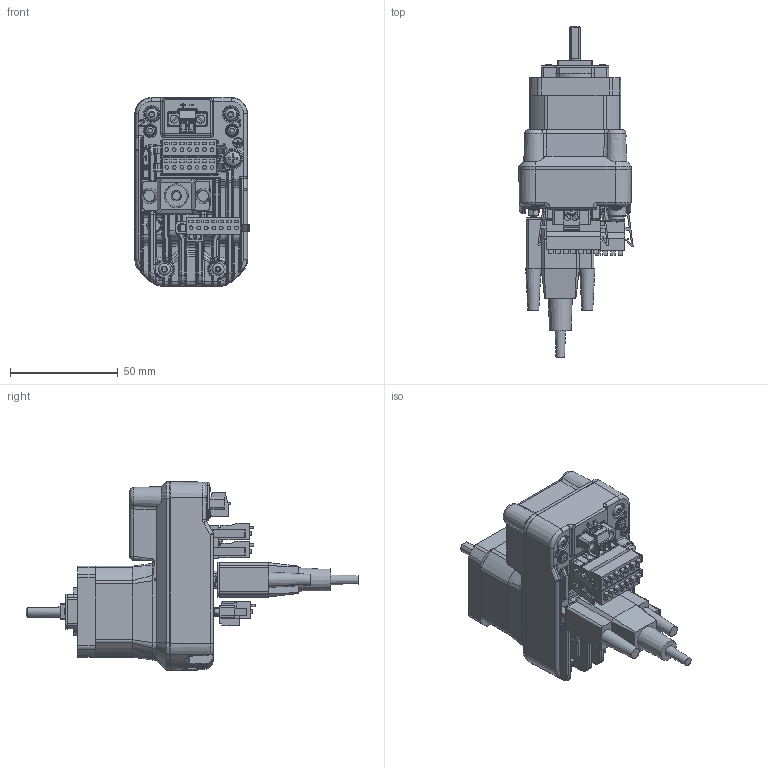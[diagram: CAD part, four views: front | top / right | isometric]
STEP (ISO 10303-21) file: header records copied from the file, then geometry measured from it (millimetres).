
FILE_DESCRIPTION(('LMDXPMA42-Single-Stack Web Model'),'1');
FILE_NAME('C:/temp/LMDXPMA42-Single-Stack Web Model.stp', '2013-09-24T14:35:20',('P. Bordua, 09/24/13'), ('Schneider Electric Motion USA'), 'KCM Version 1.1.794.0', 'Kubotek KeyCreator', 'Kubotek KeyCreator 2014 V12.0');
FILE_SCHEMA(('AUTOMOTIVE_DESIGN'));
Length unit declared in the file: inch
Products named in the file (6): Dinkle 0221-24-B3085308P, Pin-2 Keyed, Plug, 3.50mm Pitch, 7 x 1 Pos., Locking Tabs[Part1]; DB9 Mate (cable, Female)[Part1]; Dinkle EC350VM-B3081302P, Plug, 3.50 mm, 2 x 1 Pos[Part1]; Dinkle 0221-24-B3085308P, Pin-5 Keyed, Plug, 3.50mm Pitch, 7 x 1 Pos., Locking Tabs[Part1]
Bounding box: 53.03 x 153.9 x 87.6 mm (x, y, z)
Volume: 228777.4 mm3; surface area: 54589.5 mm2
Topology: 9 solids, 9 shells, 3548 faces, 8789 edges, 5546 vertices
Faces by surface type: plane 1881, cylinder 832, bspline 594, cone 123, torus 62, sphere 56
Full cylindrical faces by diameter (mm): 1.092 x27, 1.6 x31, 1.611 x4, 1.686 x28, 2.261 x2, 2.449 x4, 2.5 x2, 2.743 x4, 3 x1, 3.505 x1, 3.792 x4, 5 x1, 5.004 x2, 5.6 x4, 6.858 x1, 9.525 x1, 21.996 x1
Entity records: 132725 total; most frequent: CARTESIAN_POINT 58591, ORIENTED_EDGE 14026, DIRECTION 12977, EDGE_CURVE 7013, AXIS2_PLACEMENT_3D 4509, VERTEX_POINT 4387, VECTOR 3959, LINE 3959
